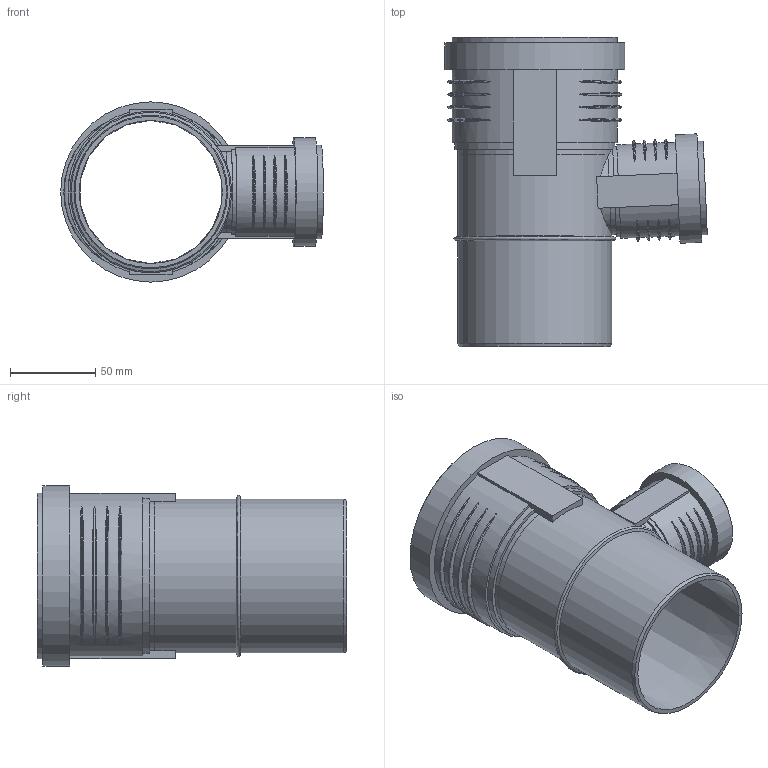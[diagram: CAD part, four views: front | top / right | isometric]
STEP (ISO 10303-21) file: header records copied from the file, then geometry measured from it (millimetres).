
FILE_DESCRIPTION(/* description */ (''),/* implementation_level */ '2;1');
FILE_NAME(/* name */ 'Z:\Geberit\Export\NewStep\390448.stp',/* time_stamp */ '2014-04-02T08:13:07+02:00',/* author */ ('ML'),/* organization */ (''),/* preprocessor_version */ 'ST-DEVELOPER v15.2',/* originating_system */ 'Autodesk Inventor 2014',/* authorisation */ '');
FILE_SCHEMA (('AUTOMOTIVE_DESIGN { 1 0 10303 214 3 1 1 }'));
Length unit declared in the file: millimetre
Products named in the file (4): 861356; 861401; 861403; 390448
Bounding box: 154.2 x 181.5 x 105.8 mm (x, y, z)
Volume: 198900.8 mm3; surface area: 143492.5 mm2
Topology: 3 solids, 3 shells, 123 faces, 302 edges, 211 vertices
Faces by surface type: torus 50, plane 37, cylinder 30, cone 6
Full cylindrical faces by diameter (mm): 46.15 x2, 50.15 x2, 51 x2, 55 x1, 59.7 x1, 63.7 x1, 84.2 x1, 90.2 x3, 91.2 x2, 97.2 x1, 99.8 x1, 105.8 x1
Entity records: 5027 total; most frequent: CARTESIAN_POINT 2136, ORIENTED_EDGE 532, DIRECTION 524, EDGE_CURVE 266, AXIS2_PLACEMENT_3D 226, VERTEX_POINT 202, EDGE_LOOP 184, STYLED_ITEM 124
